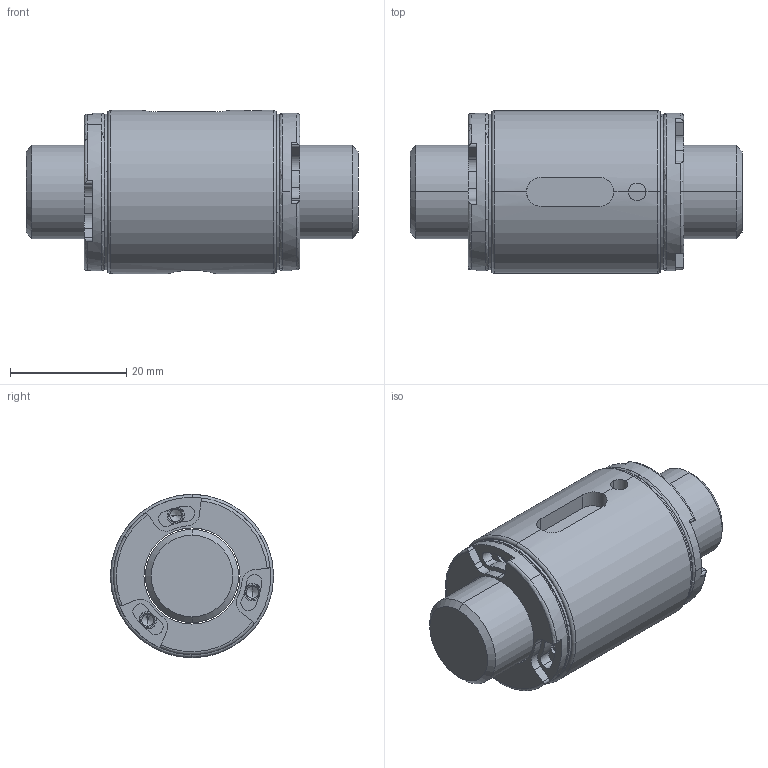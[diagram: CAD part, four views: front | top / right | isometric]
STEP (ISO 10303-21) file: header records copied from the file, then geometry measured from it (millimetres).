
FILE_DESCRIPTION (( 'STEP AP203' ), '1' );
FILE_NAME ('SCHR01605C1-C.STEP', '2020-06-17T08:42:51', ( '' ), ( '' ), 'SwSTEP 2.0', 'SolidWorks 2013', '' );
FILE_SCHEMA (( 'CONFIG_CONTROL_DESIGN' ));
Length unit declared in the file: millimetre
Products named in the file (1): SCHR01605C1-C
Bounding box: 57 x 28 x 28 mm (x, y, z)
Volume: 24863.1 mm3; surface area: 9884.1 mm2
Topology: 2 solids, 2 shells, 214 faces, 554 edges, 346 vertices
Faces by surface type: cylinder 110, plane 60, cone 28, torus 16
Entity records: 7477 total; most frequent: CARTESIAN_POINT 2045, DIRECTION 1232, ORIENTED_EDGE 1084, EDGE_CURVE 542, AXIS2_PLACEMENT_3D 521, VERTEX_POINT 346, CIRCLE 306, EDGE_LOOP 232
